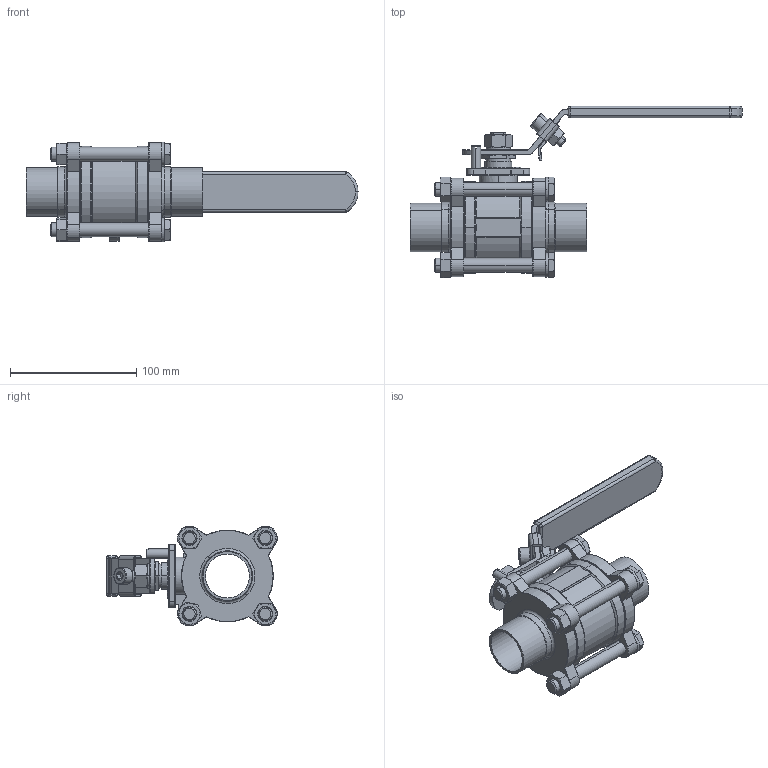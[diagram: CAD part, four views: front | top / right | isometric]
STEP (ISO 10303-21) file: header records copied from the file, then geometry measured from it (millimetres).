
FILE_DESCRIPTION (( 'STEP AP203' ), '1' );
FILE_NAME ('BAV-W-1.5.STEP', '2019-06-17T06:10:00', ( '' ), ( '' ), 'SwSTEP 2.0', 'SolidWorks 2014', '' );
FILE_SCHEMA (( 'CONFIG_CONTROL_DESIGN' ));
Length unit declared in the file: millimetre
Products named in the file (21): 2WAY-SEAT-1.5; 2WAY-BOLT WASHERS-1.5-2.0; 2WAY-STEM-1.5-2.0; 2WAY-HANDLE WASHERS-1.5-2.0; 2WAY-BALL-1.5; 2WAY-BOLT-1.5; 2WAY-GLAND-1.5-2.0; 2WAY-BODY-1.5; 2WAY-HANDLE-1.5-2.0-1; 2WAY-STEM PACKINGS-1.5-2.0; 2WAY-HANDLE-1.5-2.0; 2WAY-HANDLE NUT-1.5-2.0; 2WAY-HANDLE-1.5-2.0-3-1; 2WAY-GASKET-1.5; 2WAY-STOP PIN-1.5-2.0; 2WAY-HANDLE-1.5-2.0-3; BAV-W-1.5; 2WAY-BOLT NUT-1.5-2.0; 2WAY-THRUST WASHER-1.5-2.0; 2WAY-CAP-W-1.5; 2WAY-HANDLE-1.5-2.0-2
Assembly tree (32 placements, depth 2):
  BAV-W-1.5
    2WAY-BODY-1.5
    2WAY-BALL-1.5
    2WAY-STEM-1.5-2.0
    2WAY-THRUST WASHER-1.5-2.0
    2WAY-STEM PACKINGS-1.5-2.0
    2WAY-GLAND-1.5-2.0
    2WAY-HANDLE-1.5-2.0
    2WAY-HANDLE-1.5-2.0-1
    2WAY-HANDLE-1.5-2.0-2
    2WAY-HANDLE-1.5-2.0-3
    2WAY-HANDLE-1.5-2.0-3-1
    2WAY-BOLT-1.5  x4
    2WAY-BOLT NUT-1.5-2.0  x4
    2WAY-BOLT WASHERS-1.5-2.0  x4
    2WAY-GASKET-1.5  x2
    2WAY-SEAT-1.5  x2
    2WAY-HANDLE WASHERS-1.5-2.0
    2WAY-HANDLE NUT-1.5-2.0
    2WAY-CAP-W-1.5  x2
    2WAY-STOP PIN-1.5-2.0
Bounding box: 263.26 x 135.87 x 79.2 mm (x, y, z)
Volume: 380444.2 mm3; surface area: 185303.7 mm2
Topology: 32 solids, 32 shells, 978 faces, 2231 edges, 1308 vertices
Faces by surface type: cylinder 366, plane 243, torus 161, cone 133, sphere 43, bspline 32
Entity records: 25483 total; most frequent: CARTESIAN_POINT 5640, DIRECTION 3971, ORIENTED_EDGE 3412, EDGE_CURVE 1706, AXIS2_PLACEMENT_3D 1676, VERTEX_POINT 998, CIRCLE 910, EDGE_LOOP 834
